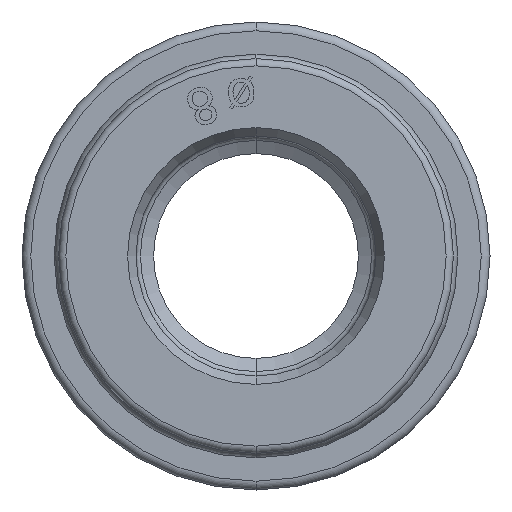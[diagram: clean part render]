
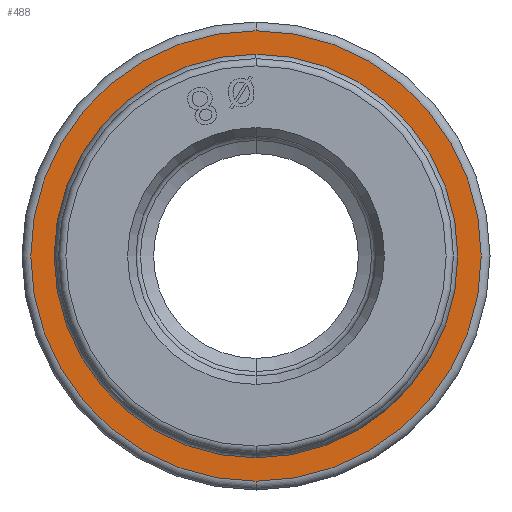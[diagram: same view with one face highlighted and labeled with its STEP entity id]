
A CAD part, front view. The second image highlights one B-rep face of the part: STEP entity #488.
In plain terms, the highlighted planar face has unit normal (0, -1, 0).
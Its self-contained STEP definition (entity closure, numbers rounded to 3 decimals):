
#51 = EDGE_CURVE ( 'NONE', #2540, #878, #5275, .T. ) ;
#330 = CIRCLE ( 'NONE', #1841, 7.7 ) ;
#488 = ADVANCED_FACE ( 'NONE', ( #1750, #9592 ), #4070, .T. ) ;
#822 = VERTEX_POINT ( 'NONE', #4439 ) ;
#878 = VERTEX_POINT ( 'NONE', #7211 ) ;
#961 = ORIENTED_EDGE ( 'NONE', *, *, #8564, .F. ) ;
#1226 = DIRECTION ( 'NONE',  ( 0., -1., 0. ) ) ;
#1750 = FACE_BOUND ( 'NONE', #8983, .T. ) ;
#1841 = AXIS2_PLACEMENT_3D ( 'NONE', #8410, #1226, #7627 ) ;
#2540 = VERTEX_POINT ( 'NONE', #9652 ) ;
#2639 = DIRECTION ( 'NONE',  ( 0., 0., -1. ) ) ;
#3122 = CARTESIAN_POINT ( 'NONE',  ( 0., 0., 6.9 ) ) ;
#3381 = CIRCLE ( 'NONE', #9854, 6.9 ) ;
#3762 = AXIS2_PLACEMENT_3D ( 'NONE', #10285, #3851, #7048 ) ;
#3851 = DIRECTION ( 'NONE',  ( 0., -1., 0. ) ) ;
#4070 = PLANE ( 'NONE',  #5458 ) ;
#4439 = CARTESIAN_POINT ( 'NONE',  ( 0., 0., -6.9 ) ) ;
#4476 = ORIENTED_EDGE ( 'NONE', *, *, #7367, .T. ) ;
#4640 = EDGE_LOOP ( 'NONE', ( #9128, #4476 ) ) ;
#5023 = DIRECTION ( 'NONE',  ( 0., 0., -1. ) ) ;
#5265 = DIRECTION ( 'NONE',  ( 0., 0., -1. ) ) ;
#5275 = CIRCLE ( 'NONE', #3762, 7.7 ) ;
#5347 = CIRCLE ( 'NONE', #6847, 6.9 ) ;
#5458 = AXIS2_PLACEMENT_3D ( 'NONE', #8025, #9683, #2639 ) ;
#6219 = EDGE_CURVE ( 'NONE', #822, #7066, #5347, .T. ) ;
#6814 = DIRECTION ( 'NONE',  ( 0., -1., 0. ) ) ;
#6834 = CARTESIAN_POINT ( 'NONE',  ( 0., 0., 0. ) ) ;
#6847 = AXIS2_PLACEMENT_3D ( 'NONE', #8207, #6814, #5023 ) ;
#7048 = DIRECTION ( 'NONE',  ( 0., 0., -1. ) ) ;
#7066 = VERTEX_POINT ( 'NONE', #3122 ) ;
#7211 = CARTESIAN_POINT ( 'NONE',  ( 0., 0., 7.7 ) ) ;
#7367 = EDGE_CURVE ( 'NONE', #878, #2540, #330, .T. ) ;
#7369 = ORIENTED_EDGE ( 'NONE', *, *, #6219, .F. ) ;
#7627 = DIRECTION ( 'NONE',  ( 0., 0., -1. ) ) ;
#8025 = CARTESIAN_POINT ( 'NONE',  ( 0., 0., 0. ) ) ;
#8207 = CARTESIAN_POINT ( 'NONE',  ( 0., 0., 0. ) ) ;
#8410 = CARTESIAN_POINT ( 'NONE',  ( 0., 0., 0. ) ) ;
#8564 = EDGE_CURVE ( 'NONE', #7066, #822, #3381, .T. ) ;
#8983 = EDGE_LOOP ( 'NONE', ( #7369, #961 ) ) ;
#9128 = ORIENTED_EDGE ( 'NONE', *, *, #51, .T. ) ;
#9218 = DIRECTION ( 'NONE',  ( 0., -1., 0. ) ) ;
#9592 = FACE_OUTER_BOUND ( 'NONE', #4640, .T. ) ;
#9652 = CARTESIAN_POINT ( 'NONE',  ( 0., 0., -7.7 ) ) ;
#9683 = DIRECTION ( 'NONE',  ( 0., -1., 0. ) ) ;
#9854 = AXIS2_PLACEMENT_3D ( 'NONE', #6834, #9218, #5265 ) ;
#10285 = CARTESIAN_POINT ( 'NONE',  ( 0., 0., 0. ) ) ;
